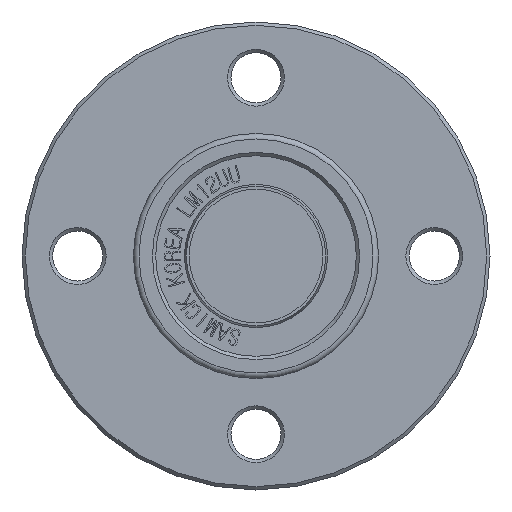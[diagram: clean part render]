
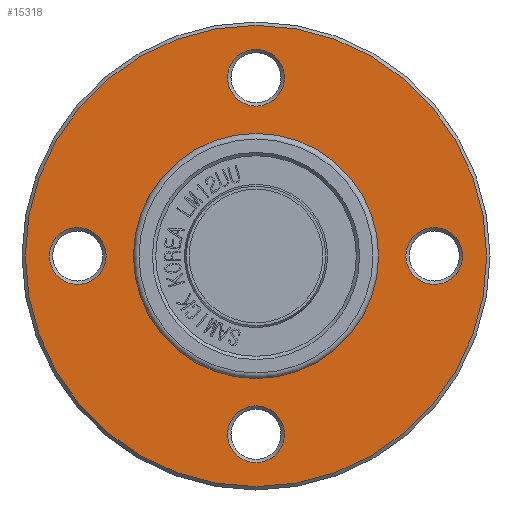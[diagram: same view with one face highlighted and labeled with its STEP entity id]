
A CAD part, front view. The second image highlights one B-rep face of the part: STEP entity #15318.
In plain terms, the highlighted planar face has unit normal (0, -1, 0).
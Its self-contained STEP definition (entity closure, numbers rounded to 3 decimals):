
#2172=FACE_BOUND('',#3320,.T.);
#2173=FACE_BOUND('',#3321,.T.);
#2174=FACE_BOUND('',#3322,.T.);
#2175=FACE_BOUND('',#3323,.T.);
#2176=FACE_BOUND('',#3324,.T.);
#2230=PLANE('',#16207);
#2471=FACE_OUTER_BOUND('',#3319,.T.);
#3319=EDGE_LOOP('',(#10592,#10593));
#3320=EDGE_LOOP('',(#10594));
#3321=EDGE_LOOP('',(#10595));
#3322=EDGE_LOOP('',(#10596,#10597));
#3323=EDGE_LOOP('',(#10598));
#3324=EDGE_LOOP('',(#10599));
#6507=CIRCLE('',#16205,2.55);
#6509=CIRCLE('',#16208,20.7);
#6510=CIRCLE('',#16209,20.7);
#6511=CIRCLE('',#16210,2.55);
#6512=CIRCLE('',#16211,2.55);
#6513=CIRCLE('',#16212,11.);
#6514=CIRCLE('',#16213,11.);
#6515=CIRCLE('',#16214,2.55);
#6589=VERTEX_POINT('',#18412);
#6591=VERTEX_POINT('',#18418);
#6592=VERTEX_POINT('',#18419);
#6593=VERTEX_POINT('',#18422);
#6594=VERTEX_POINT('',#18424);
#6595=VERTEX_POINT('',#18426);
#6596=VERTEX_POINT('',#18427);
#6597=VERTEX_POINT('',#18430);
#8189=EDGE_CURVE('',#6589,#6589,#6507,.T.);
#8192=EDGE_CURVE('',#6591,#6592,#6509,.T.);
#8193=EDGE_CURVE('',#6592,#6591,#6510,.T.);
#8194=EDGE_CURVE('',#6593,#6593,#6511,.T.);
#8195=EDGE_CURVE('',#6594,#6594,#6512,.T.);
#8196=EDGE_CURVE('',#6595,#6596,#6513,.T.);
#8197=EDGE_CURVE('',#6596,#6595,#6514,.T.);
#8198=EDGE_CURVE('',#6597,#6597,#6515,.T.);
#10592=ORIENTED_EDGE('',*,*,#8192,.T.);
#10593=ORIENTED_EDGE('',*,*,#8193,.T.);
#10594=ORIENTED_EDGE('',*,*,#8194,.F.);
#10595=ORIENTED_EDGE('',*,*,#8195,.F.);
#10596=ORIENTED_EDGE('',*,*,#8196,.F.);
#10597=ORIENTED_EDGE('',*,*,#8197,.F.);
#10598=ORIENTED_EDGE('',*,*,#8198,.F.);
#10599=ORIENTED_EDGE('',*,*,#8189,.F.);
#15318=ADVANCED_FACE('',(#2471,#2172,#2173,#2174,#2175,#2176),#2230,.T.);
#16205=AXIS2_PLACEMENT_3D('',#18413,#16594,#16595);
#16207=AXIS2_PLACEMENT_3D('',#18417,#16599,#16600);
#16208=AXIS2_PLACEMENT_3D('',#18420,#16601,#16602);
#16209=AXIS2_PLACEMENT_3D('',#18421,#16603,#16604);
#16210=AXIS2_PLACEMENT_3D('',#18423,#16605,#16606);
#16211=AXIS2_PLACEMENT_3D('',#18425,#16607,#16608);
#16212=AXIS2_PLACEMENT_3D('',#18428,#16609,#16610);
#16213=AXIS2_PLACEMENT_3D('',#18429,#16611,#16612);
#16214=AXIS2_PLACEMENT_3D('',#18431,#16613,#16614);
#16594=DIRECTION('center_axis',(0.,-1.,0.));
#16595=DIRECTION('ref_axis',(0.,0.,
1.));
#16599=DIRECTION('center_axis',(0.,-1.,0.));
#16600=DIRECTION('ref_axis',(0.,0.,-1.));
#16601=DIRECTION('center_axis',(0.,-1.,0.));
#16602=DIRECTION('ref_axis',(1.,0.,0.));
#16603=DIRECTION('center_axis',(0.,-1.,0.));
#16604=DIRECTION('ref_axis',(1.,0.,0.));
#16605=DIRECTION('center_axis',(0.,-1.,0.));
#16606=DIRECTION('ref_axis',(-1.,0.,0.));
#16607=DIRECTION('center_axis',(0.,-1.,0.));
#16608=DIRECTION('ref_axis',(1.,0.,0.));
#16609=DIRECTION('center_axis',(0.,-1.,0.));
#16610=DIRECTION('ref_axis',(1.,0.,0.));
#16611=DIRECTION('center_axis',(0.,-1.,0.));
#16612=DIRECTION('ref_axis',(1.,0.,0.));
#16613=DIRECTION('center_axis',(0.,-1.,0.));
#16614=DIRECTION('ref_axis',(0.,0.,-1.));
#18412=CARTESIAN_POINT('',(0.,16.5,13.45));
#18413=CARTESIAN_POINT('Origin',(0.,16.5,16.));
#18417=CARTESIAN_POINT('Origin',(11.,16.5,0.));
#18418=CARTESIAN_POINT('',(20.7,16.5,0.));
#18419=CARTESIAN_POINT('',(-20.7,16.5,0.));
#18420=CARTESIAN_POINT('Origin',(0.,16.5,0.));
#18421=CARTESIAN_POINT('Origin',(0.,16.5,0.));
#18422=CARTESIAN_POINT('',(-13.45,16.5,0.));
#18423=CARTESIAN_POINT('Origin',(-16.,16.5,0.));
#18424=CARTESIAN_POINT('',(13.45,16.5,0.));
#18425=CARTESIAN_POINT('Origin',(16.,16.5,0.));
#18426=CARTESIAN_POINT('',(11.,16.5,0.));
#18427=CARTESIAN_POINT('',(-11.,16.5,0.));
#18428=CARTESIAN_POINT('Origin',(0.,16.5,0.));
#18429=CARTESIAN_POINT('Origin',(0.,16.5,0.));
#18430=CARTESIAN_POINT('',(0.,16.5,-13.45));
#18431=CARTESIAN_POINT('Origin',(0.,16.5,-16.));
